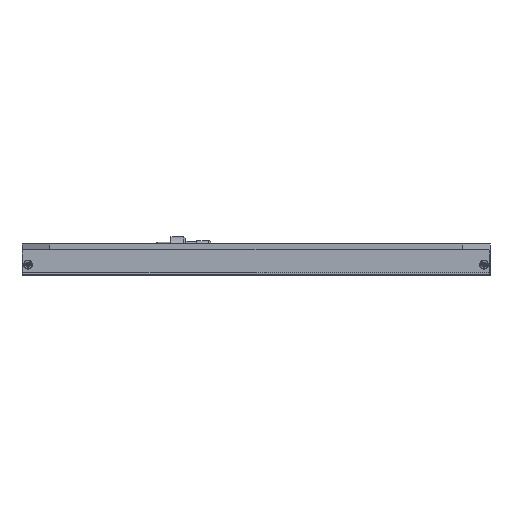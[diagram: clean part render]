
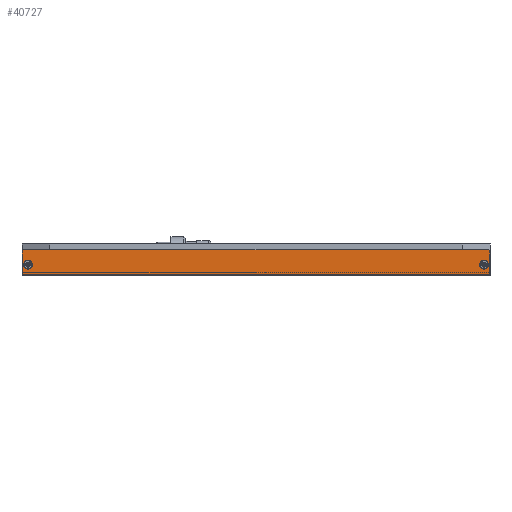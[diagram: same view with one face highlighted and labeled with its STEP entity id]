
A CAD part, front view. The second image highlights one B-rep face of the part: STEP entity #40727.
In plain terms, the highlighted planar face has unit normal (0, -1, 0).
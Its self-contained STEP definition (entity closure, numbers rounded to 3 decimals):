
#10882=DIRECTION('',(-1.,0.,0.));
#10883=VECTOR('',#10882,314.6);
#10884=CARTESIAN_POINT('',(157.3,-157.5,0.));
#10885=LINE('',#10884,#10883);
#11222=CARTESIAN_POINT('',(-153.5,-157.5,-10.));
#11223=DIRECTION('',(0.,1.,0.));
#11224=DIRECTION('',(0.,0.,1.));
#11225=AXIS2_PLACEMENT_3D('',#11222,#11223,#11224);
#11227=CARTESIAN_POINT('',(-153.5,-157.5,-10.));
#11228=DIRECTION('',(0.,1.,0.));
#11229=DIRECTION('',(0.,0.,-1.));
#11230=AXIS2_PLACEMENT_3D('',#11227,#11228,#11229);
#11232=CARTESIAN_POINT('',(153.5,-157.5,-10.));
#11233=DIRECTION('',(0.,1.,0.));
#11234=DIRECTION('',(0.,0.,-1.));
#11235=AXIS2_PLACEMENT_3D('',#11232,#11233,#11234);
#11237=CARTESIAN_POINT('',(153.5,-157.5,-10.));
#11238=DIRECTION('',(0.,1.,0.));
#11239=DIRECTION('',(0.,0.,1.));
#11240=AXIS2_PLACEMENT_3D('',#11237,#11238,#11239);
#11242=DIRECTION('',(1.,0.,0.));
#11243=VECTOR('',#11242,314.6);
#11244=CARTESIAN_POINT('',(-157.3,-157.5,-16.8));
#11245=LINE('',#11244,#11243);
#11246=DIRECTION('',(0.,0.,-1.));
#11247=VECTOR('',#11246,16.8);
#11248=CARTESIAN_POINT('',(-157.3,-157.5,0.));
#11249=LINE('',#11248,#11247);
#11942=DIRECTION('',(0.,0.,-1.));
#11943=VECTOR('',#11942,16.8);
#11944=CARTESIAN_POINT('',(157.3,-157.5,0.));
#11945=LINE('',#11944,#11943);
#19288=CARTESIAN_POINT('',(-157.3,-157.5,-16.8));
#19289=VERTEX_POINT('',#19288);
#19296=CARTESIAN_POINT('',(157.3,-157.5,-16.8));
#19297=VERTEX_POINT('',#19296);
#19298=CARTESIAN_POINT('',(153.5,-157.5,-7.));
#19299=CARTESIAN_POINT('',(153.5,-157.5,-13.));
#19300=VERTEX_POINT('',#19298);
#19301=VERTEX_POINT('',#19299);
#19302=CARTESIAN_POINT('',(-153.5,-157.5,-13.));
#19303=CARTESIAN_POINT('',(-153.5,-157.5,-7.));
#19304=VERTEX_POINT('',#19302);
#19305=VERTEX_POINT('',#19303);
#23165=CARTESIAN_POINT('',(-157.3,-157.5,0.));
#23167=VERTEX_POINT('',#23165);
#23168=CARTESIAN_POINT('',(157.3,-157.5,0.));
#23169=VERTEX_POINT('',#23168);
#40702=CARTESIAN_POINT('',(-157.5,-157.5,-17.));
#40703=DIRECTION('',(0.,-1.,0.));
#40704=DIRECTION('',(0.,0.,1.));
#40705=AXIS2_PLACEMENT_3D('',#40702,#40703,#40704);
#40706=PLANE('',#40705);
#40708=ORIENTED_EDGE('',*,*,#40707,.T.);
#40710=ORIENTED_EDGE('',*,*,#40709,.F.);
#40711=ORIENTED_EDGE('',*,*,#40692,.F.);
#40712=ORIENTED_EDGE('',*,*,#40112,.F.);
#40713=EDGE_LOOP('',(#40708,#40710,#40711,#40712));
#40714=FACE_OUTER_BOUND('',#40713,.F.);
#40716=ORIENTED_EDGE('',*,*,#40715,.F.);
#40718=ORIENTED_EDGE('',*,*,#40717,.F.);
#40719=EDGE_LOOP('',(#40716,#40718));
#40720=FACE_BOUND('',#40719,.F.);
#40722=ORIENTED_EDGE('',*,*,#40721,.F.);
#40724=ORIENTED_EDGE('',*,*,#40723,.F.);
#40725=EDGE_LOOP('',(#40722,#40724));
#40726=FACE_BOUND('',#40725,.F.);
#11226=CIRCLE('',#11225,3.);
#11231=CIRCLE('',#11230,3.);
#11236=CIRCLE('',#11235,3.);
#11241=CIRCLE('',#11240,3.);
#40112=EDGE_CURVE('',#23169,#23167,#10885,.T.);
#40692=EDGE_CURVE('',#23167,#19289,#11249,.T.);
#40707=EDGE_CURVE('',#23169,#19297,#11945,.T.);
#40709=EDGE_CURVE('',#19289,#19297,#11245,.T.);
#40715=EDGE_CURVE('',#19301,#19300,#11236,.T.);
#40717=EDGE_CURVE('',#19300,#19301,#11241,.T.);
#40721=EDGE_CURVE('',#19305,#19304,#11226,.T.);
#40723=EDGE_CURVE('',#19304,#19305,#11231,.T.);
#40727=ADVANCED_FACE('',(#40714,#40720,#40726),#40706,.T.);
